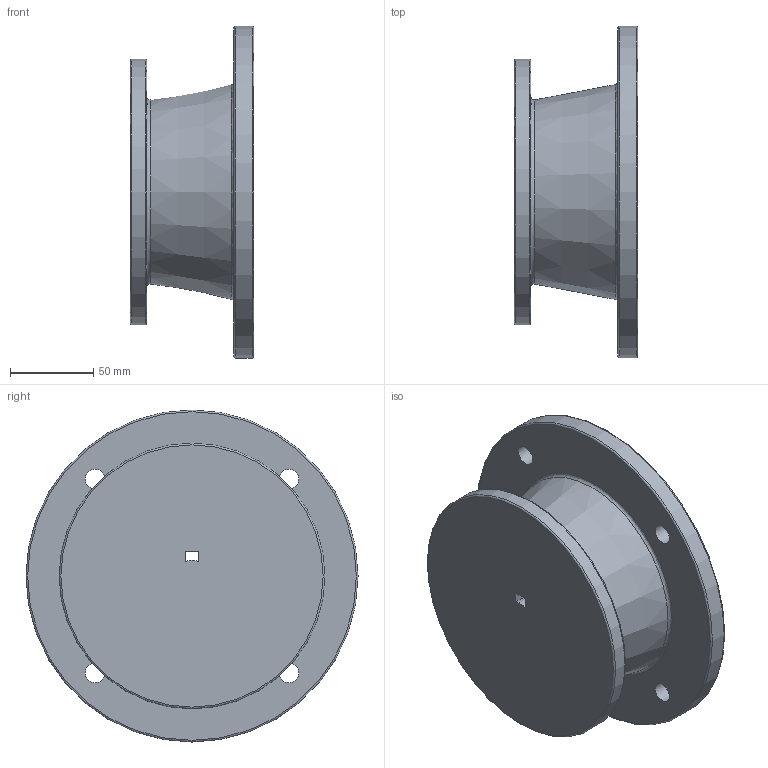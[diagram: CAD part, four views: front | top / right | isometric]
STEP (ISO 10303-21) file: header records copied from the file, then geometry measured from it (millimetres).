
FILE_DESCRIPTION((''),'2;1');
FILE_NAME('D:\PAWEŁ\ZLECENIA\2011 DualSystem\Przekładnie DR\DR40\STEP\80_B5_L74,5.stp','2012-06-11T11:57:01',('admin'),(''),'Autodesk Inventor 2009','Autodesk Inventor 2009','');
FILE_SCHEMA(('AUTOMOTIVE_DESIGN { 1 0 10303 214 1 1 1 1 }'));
Length unit declared in the file: millimetre
Products named in the file (1): 80_B5_L74,5
Bounding box: 74.5 x 200 x 200 mm (x, y, z)
Volume: 582527.3 mm3; surface area: 138689.6 mm2
Topology: 1 solids, 1 shells, 30 faces, 60 edges, 37 vertices
Faces by surface type: plane 11, cylinder 6, bspline 6, torus 5, cone 2
Full cylindrical faces by diameter (mm): 39 x1, 130 x1, 160 x1, 200 x1
Entity records: 918 total; most frequent: CARTESIAN_POINT 285, DIRECTION 124, ORIENTED_EDGE 86, EDGE_LOOP 62, AXIS2_PLACEMENT_3D 56, EDGE_CURVE 43, VERTEX_POINT 37, FACE_BOUND 32
